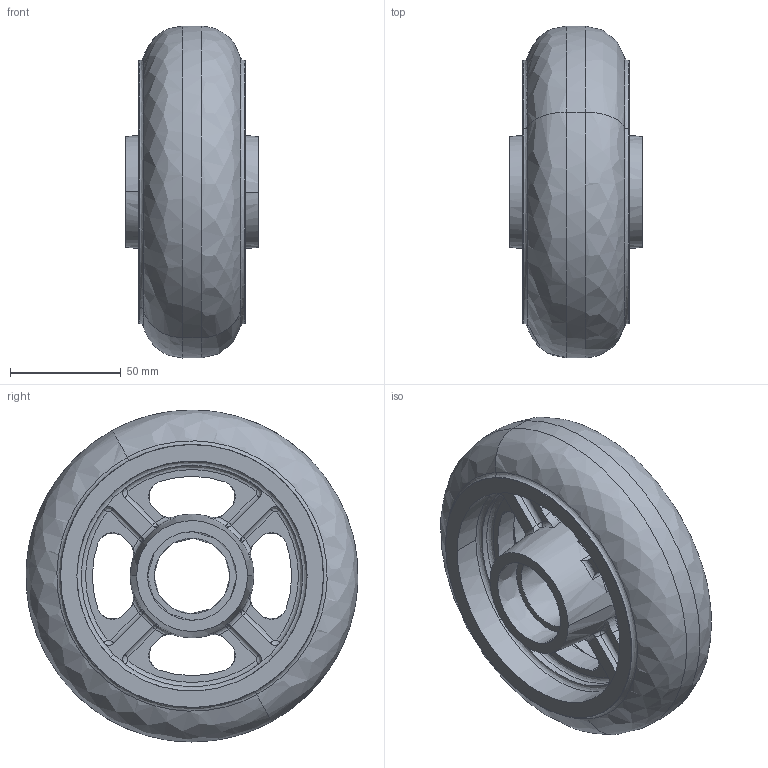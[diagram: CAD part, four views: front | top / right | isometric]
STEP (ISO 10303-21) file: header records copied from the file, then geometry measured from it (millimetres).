
FILE_DESCRIPTION (( 'STEP AP214' ), '1' );
FILE_NAME ('KTU-150WJ-GS-100.STEP', '2018-08-30T07:11:02', ( '' ), ( '' ), 'SwSTEP 2.0', 'SolidWorks 2010', '' );
FILE_SCHEMA (( 'AUTOMOTIVE_DESIGN' ));
Length unit declared in the file: millimetre
Products named in the file (1): KTU-150WJ-GS-100
Bounding box: 60 x 149.96 x 150 mm (x, y, z)
Volume: 477011.2 mm3; surface area: 73236.8 mm2
Topology: 1 solids, 1 shells, 246 faces, 997 edges, 749 vertices
Faces by surface type: bspline 200, plane 46
Entity records: 33968 total; most frequent: CARTESIAN_POINT 27822, ORIENTED_EDGE 1994, EDGE_CURVE 997, B_SPLINE_CURVE_WITH_KNOTS 957, VERTEX_POINT 749, EDGE_LOOP 252, FACE_OUTER_BOUND 246, ADVANCED_FACE 246
